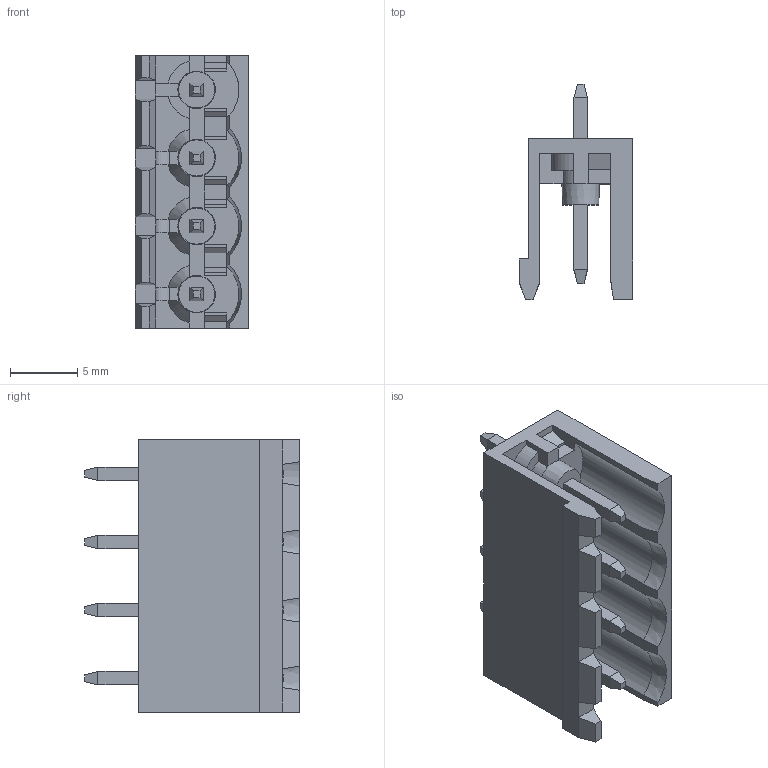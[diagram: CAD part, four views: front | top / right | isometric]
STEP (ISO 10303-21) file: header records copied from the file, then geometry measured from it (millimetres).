
FILE_DESCRIPTION (( 'STEP AP203' ), '1' );
FILE_NAME ('BR8MC1-04.STEP', '2020-03-18T02:40:00', ( '' ), ( '' ), 'SwSTEP 2.0', 'SolidWorks 2019', '' );
FILE_SCHEMA (( 'CONFIG_CONTROL_DESIGN' ));
Length unit declared in the file: millimetre
Products named in the file (1): BR8MC1-04
Bounding box: 8.5 x 16.03 x 20.32 mm (x, y, z)
Volume: 772.7 mm3; surface area: 1767.1 mm2
Topology: 1 solids, 1 shells, 351 faces, 918 edges, 569 vertices
Faces by surface type: plane 305, cylinder 21, cone 17, sphere 8
Entity records: 10508 total; most frequent: CARTESIAN_POINT 1968, ORIENTED_EDGE 1804, DIRECTION 1653, EDGE_CURVE 902, LINE 781, VECTOR 781, VERTEX_POINT 561, AXIS2_PLACEMENT_3D 436
